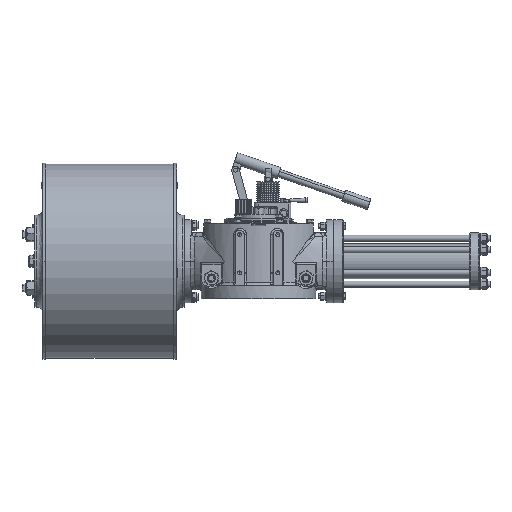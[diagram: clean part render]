
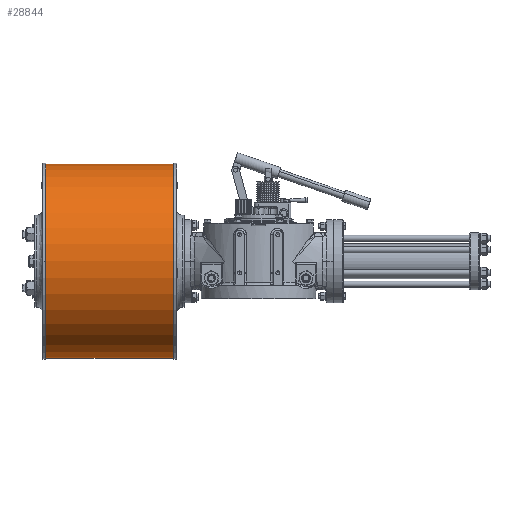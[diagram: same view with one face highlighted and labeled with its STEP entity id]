
A CAD part, front view. The second image highlights one B-rep face of the part: STEP entity #28844.
In plain terms, the highlighted cylindrical face has radius 254 mm (diameter 508 mm), a partial arc.
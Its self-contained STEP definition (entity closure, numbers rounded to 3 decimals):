
#1367 = CARTESIAN_POINT ( 'NONE',  ( -223., 35.5, 74.5 ) ) ;
#4334 = VECTOR ( 'NONE', #57289, 1000. ) ;
#6394 = EDGE_CURVE ( 'NONE', #44523, #50749, #85917, .T. ) ;
#7719 = CARTESIAN_POINT ( 'NONE',  ( -558., 35.5, 74.5 ) ) ;
#7952 = CIRCLE ( 'NONE', #51937, 254. ) ;
#8720 = VECTOR ( 'NONE', #13718, 1000. ) ;
#9489 = CARTESIAN_POINT ( 'NONE',  ( -558., 35.5, -179.5 ) ) ;
#12704 = CARTESIAN_POINT ( 'NONE',  ( -223., 35.5, -179.5 ) ) ;
#13718 = DIRECTION ( 'NONE',  ( -1., 0., 0. ) ) ;
#15169 = FACE_OUTER_BOUND ( 'NONE', #62489, .T. ) ;
#20556 = CARTESIAN_POINT ( 'NONE',  ( -223., 35.5, 74.5 ) ) ;
#20847 = CARTESIAN_POINT ( 'NONE',  ( -223., 35.5, -179.5 ) ) ;
#28844 = ADVANCED_FACE ( 'NONE', ( #15169 ), #44107, .T. ) ;
#33688 = EDGE_CURVE ( 'NONE', #37489, #50749, #7952, .T. ) ;
#33921 = VERTEX_POINT ( 'NONE', #71760 ) ;
#34280 = ORIENTED_EDGE ( 'NONE', *, *, #6394, .F. ) ;
#35446 = LINE ( 'NONE', #64430, #4334 ) ;
#36142 = ORIENTED_EDGE ( 'NONE', *, *, #59052, .T. ) ;
#37489 = VERTEX_POINT ( 'NONE', #45469 ) ;
#44107 = CYLINDRICAL_SURFACE ( 'NONE', #62851, 254. ) ;
#44523 = VERTEX_POINT ( 'NONE', #12704 ) ;
#45469 = CARTESIAN_POINT ( 'NONE',  ( -558., 35.5, 328.5 ) ) ;
#48098 = DIRECTION ( 'NONE',  ( -1., 0., 0. ) ) ;
#48504 = AXIS2_PLACEMENT_3D ( 'NONE', #20556, #48098, #70887 ) ;
#48757 = ORIENTED_EDGE ( 'NONE', *, *, #88604, .T. ) ;
#50749 = VERTEX_POINT ( 'NONE', #9489 ) ;
#51937 = AXIS2_PLACEMENT_3D ( 'NONE', #7719, #78994, #80375 ) ;
#57289 = DIRECTION ( 'NONE',  ( -1., 0., 0. ) ) ;
#59052 = EDGE_CURVE ( 'NONE', #44523, #33921, #60608, .T. ) ;
#60608 = CIRCLE ( 'NONE', #48504, 254. ) ;
#62489 = EDGE_LOOP ( 'NONE', ( #34280, #36142, #48757, #78866 ) ) ;
#62851 = AXIS2_PLACEMENT_3D ( 'NONE', #1367, #73573, #74518 ) ;
#64430 = CARTESIAN_POINT ( 'NONE',  ( -223., 35.5, 328.5 ) ) ;
#70887 = DIRECTION ( 'NONE',  ( 0., 0., 1. ) ) ;
#71760 = CARTESIAN_POINT ( 'NONE',  ( -223., 35.5, 328.5 ) ) ;
#73573 = DIRECTION ( 'NONE',  ( -1., 0., 0. ) ) ;
#74518 = DIRECTION ( 'NONE',  ( 0., 0., 1. ) ) ;
#78866 = ORIENTED_EDGE ( 'NONE', *, *, #33688, .T. ) ;
#78994 = DIRECTION ( 'NONE',  ( 1., 0., 0. ) ) ;
#80375 = DIRECTION ( 'NONE',  ( 0., 0., 1. ) ) ;
#85917 = LINE ( 'NONE', #20847, #8720 ) ;
#88604 = EDGE_CURVE ( 'NONE', #33921, #37489, #35446, .T. ) ;
